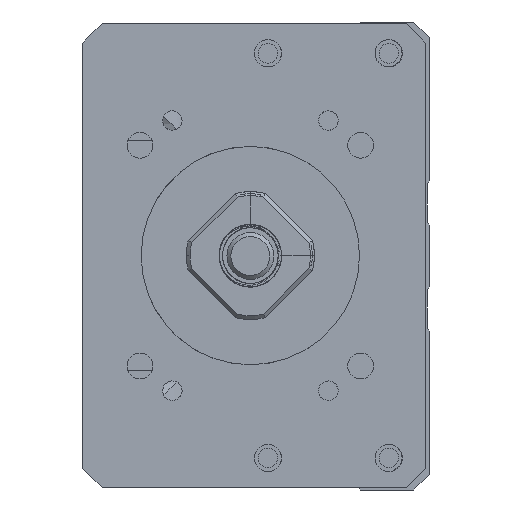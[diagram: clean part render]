
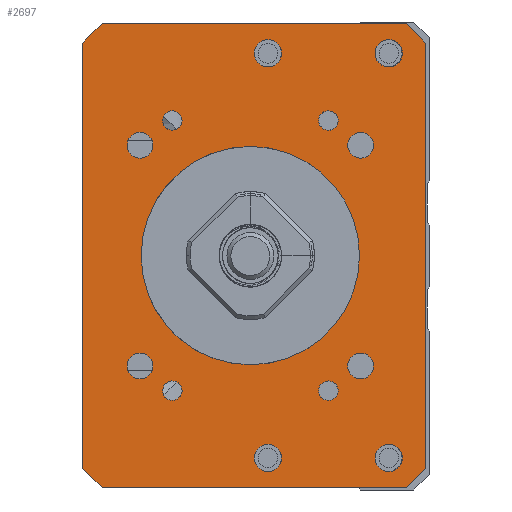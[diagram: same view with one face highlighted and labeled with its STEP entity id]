
A CAD part, left-side view. The second image highlights one B-rep face of the part: STEP entity #2697.
In plain terms, the highlighted planar face has unit normal (-1, 0, 0).
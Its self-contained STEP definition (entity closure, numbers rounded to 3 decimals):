
#1021=LINE('',#14729,#1851);
#1023=LINE('',#14753,#1853);
#1024=LINE('',#14755,#1854);
#1025=LINE('',#14757,#1855);
#1026=LINE('',#14759,#1856);
#1027=LINE('',#14761,#1857);
#1028=LINE('',#14763,#1858);
#1029=LINE('',#14765,#1859);
#1851=VECTOR('',#11752,1.);
#1853=VECTOR('',#11776,1.);
#1854=VECTOR('',#11777,1.);
#1855=VECTOR('',#11778,1.);
#1856=VECTOR('',#11779,1.);
#1857=VECTOR('',#11780,1.);
#1858=VECTOR('',#11781,1.);
#1859=VECTOR('',#11782,1.);
#2697=ADVANCED_FACE('',(#3717,#3718,#3719,#3720,#3721,#3722,#3723,#3724,
#3725,#3726,#3727,#3728,#3729,#3730),#3333,.F.);
#3333=PLANE('',#10707);
#3717=FACE_BOUND('',#4179,.T.);
#3718=FACE_BOUND('',#4180,.T.);
#3719=FACE_BOUND('',#4181,.T.);
#3720=FACE_BOUND('',#4182,.T.);
#3721=FACE_BOUND('',#4183,.T.);
#3722=FACE_BOUND('',#4184,.T.);
#3723=FACE_BOUND('',#4185,.T.);
#3724=FACE_BOUND('',#4186,.T.);
#3725=FACE_BOUND('',#4187,.T.);
#3726=FACE_BOUND('',#4188,.T.);
#3727=FACE_BOUND('',#4189,.T.);
#3728=FACE_BOUND('',#4190,.T.);
#3729=FACE_BOUND('',#4191,.T.);
#3730=FACE_BOUND('',#4192,.T.);
#4179=EDGE_LOOP('',(#5100));
#4180=EDGE_LOOP('',(#5101));
#4181=EDGE_LOOP('',(#5102));
#4182=EDGE_LOOP('',(#5103));
#4183=EDGE_LOOP('',(#5104));
#4184=EDGE_LOOP('',(#5105));
#4185=EDGE_LOOP('',(#5106));
#4186=EDGE_LOOP('',(#5107));
#4187=EDGE_LOOP('',(#5108));
#4188=EDGE_LOOP('',(#5109,#5110,#5111,#5112,#5113,#5114,#5115,#5116));
#4189=EDGE_LOOP('',(#5117));
#4190=EDGE_LOOP('',(#5118));
#4191=EDGE_LOOP('',(#5119));
#4192=EDGE_LOOP('',(#5120));
#5100=ORIENTED_EDGE('',*,*,#8917,.F.);
#5101=ORIENTED_EDGE('',*,*,#8918,.F.);
#5102=ORIENTED_EDGE('',*,*,#8919,.F.);
#5103=ORIENTED_EDGE('',*,*,#8920,.F.);
#5104=ORIENTED_EDGE('',*,*,#8921,.F.);
#5105=ORIENTED_EDGE('',*,*,#8922,.T.);
#5106=ORIENTED_EDGE('',*,*,#8923,.F.);
#5107=ORIENTED_EDGE('',*,*,#8924,.F.);
#5108=ORIENTED_EDGE('',*,*,#8925,.F.);
#5109=ORIENTED_EDGE('',*,*,#8914,.T.);
#5110=ORIENTED_EDGE('',*,*,#8926,.T.);
#5111=ORIENTED_EDGE('',*,*,#8927,.F.);
#5112=ORIENTED_EDGE('',*,*,#8928,.T.);
#5113=ORIENTED_EDGE('',*,*,#8929,.F.);
#5114=ORIENTED_EDGE('',*,*,#8930,.T.);
#5115=ORIENTED_EDGE('',*,*,#8931,.T.);
#5116=ORIENTED_EDGE('',*,*,#8932,.T.);
#5117=ORIENTED_EDGE('',*,*,#8933,.F.);
#5118=ORIENTED_EDGE('',*,*,#8934,.F.);
#5119=ORIENTED_EDGE('',*,*,#8935,.F.);
#5120=ORIENTED_EDGE('',*,*,#8894,.F.);
#7896=VERTEX_POINT('',#14652);
#7916=VERTEX_POINT('',#14728);
#7917=VERTEX_POINT('',#14730);
#7919=VERTEX_POINT('',#14736);
#7920=VERTEX_POINT('',#14738);
#7921=VERTEX_POINT('',#14740);
#7922=VERTEX_POINT('',#14742);
#7923=VERTEX_POINT('',#14744);
#7924=VERTEX_POINT('',#14746);
#7925=VERTEX_POINT('',#14748);
#7926=VERTEX_POINT('',#14750);
#7927=VERTEX_POINT('',#14752);
#7928=VERTEX_POINT('',#14754);
#7929=VERTEX_POINT('',#14756);
#7930=VERTEX_POINT('',#14758);
#7931=VERTEX_POINT('',#14760);
#7932=VERTEX_POINT('',#14762);
#7933=VERTEX_POINT('',#14764);
#7934=VERTEX_POINT('',#14767);
#7935=VERTEX_POINT('',#14769);
#7936=VERTEX_POINT('',#14771);
#8894=EDGE_CURVE('',#7896,#7896,#10304,.T.);
#8914=EDGE_CURVE('',#7917,#7916,#1021,.T.);
#8917=EDGE_CURVE('',#7919,#7919,#10313,.T.);
#8918=EDGE_CURVE('',#7920,#7920,#10314,.T.);
#8919=EDGE_CURVE('',#7921,#7921,#10315,.T.);
#8920=EDGE_CURVE('',#7922,#7922,#10316,.T.);
#8921=EDGE_CURVE('',#7923,#7923,#10317,.T.);
#8922=EDGE_CURVE('',#7924,#7924,#10318,.T.);
#8923=EDGE_CURVE('',#7925,#7925,#10319,.T.);
#8924=EDGE_CURVE('',#7926,#7926,#10320,.T.);
#8925=EDGE_CURVE('',#7927,#7927,#10321,.T.);
#8926=EDGE_CURVE('',#7916,#7928,#1023,.T.);
#8927=EDGE_CURVE('',#7929,#7928,#1024,.T.);
#8928=EDGE_CURVE('',#7929,#7930,#1025,.T.);
#8929=EDGE_CURVE('',#7931,#7930,#1026,.T.);
#8930=EDGE_CURVE('',#7931,#7932,#1027,.T.);
#8931=EDGE_CURVE('',#7932,#7933,#1028,.T.);
#8932=EDGE_CURVE('',#7933,#7917,#1029,.T.);
#8933=EDGE_CURVE('',#7934,#7934,#10322,.T.);
#8934=EDGE_CURVE('',#7935,#7935,#10323,.T.);
#8935=EDGE_CURVE('',#7936,#7936,#10324,.T.);
#10304=CIRCLE('',#10684,14.);
#10313=CIRCLE('',#10695,1.65);
#10314=CIRCLE('',#10696,1.65);
#10315=CIRCLE('',#10697,1.65);
#10316=CIRCLE('',#10698,1.65);
#10317=CIRCLE('',#10699,1.25);
#10318=CIRCLE('',#10700,1.75);
#10319=CIRCLE('',#10701,1.25);
#10320=CIRCLE('',#10702,1.75);
#10321=CIRCLE('',#10703,1.25);
#10322=CIRCLE('',#10704,1.75);
#10323=CIRCLE('',#10705,1.75);
#10324=CIRCLE('',#10706,1.25);
#10684=AXIS2_PLACEMENT_3D('',#14651,#11726,#11727);
#10695=AXIS2_PLACEMENT_3D('',#14735,#11758,#11759);
#10696=AXIS2_PLACEMENT_3D('',#14737,#11760,#11761);
#10697=AXIS2_PLACEMENT_3D('',#14739,#11762,#11763);
#10698=AXIS2_PLACEMENT_3D('',#14741,#11764,#11765);
#10699=AXIS2_PLACEMENT_3D('',#14743,#11766,#11767);
#10700=AXIS2_PLACEMENT_3D('',#14745,#11768,#11769);
#10701=AXIS2_PLACEMENT_3D('',#14747,#11770,#11771);
#10702=AXIS2_PLACEMENT_3D('',#14749,#11772,#11773);
#10703=AXIS2_PLACEMENT_3D('',#14751,#11774,#11775);
#10704=AXIS2_PLACEMENT_3D('',#14766,#11783,#11784);
#10705=AXIS2_PLACEMENT_3D('',#14768,#11785,#11786);
#10706=AXIS2_PLACEMENT_3D('',#14770,#11787,#11788);
#10707=AXIS2_PLACEMENT_3D('',#14772,#11789,#11790);
#11726=DIRECTION('',(-1.,0.,0.));
#11727=DIRECTION('',(0.,1.,0.));
#11752=DIRECTION('',(0.,0.,-1.));
#11758=DIRECTION('',(-1.,0.,0.));
#11759=DIRECTION('',(0.,0.,1.));
#11760=DIRECTION('',(-1.,0.,0.));
#11761=DIRECTION('',(0.,0.,1.));
#11762=DIRECTION('',(-1.,0.,0.));
#11763=DIRECTION('',(0.,0.,1.));
#11764=DIRECTION('',(-1.,0.,0.));
#11765=DIRECTION('',(0.,0.,1.));
#11766=DIRECTION('',(-1.,0.,0.));
#11767=DIRECTION('',(0.,1.,0.));
#11768=DIRECTION('',(1.,0.,0.));
#11769=DIRECTION('',(0.,0.,1.));
#11770=DIRECTION('',(-1.,0.,0.));
#11771=DIRECTION('',(0.,1.,0.));
#11772=DIRECTION('',(-1.,0.,0.));
#11773=DIRECTION('',(0.,0.,1.));
#11774=DIRECTION('',(-1.,0.,0.));
#11775=DIRECTION('',(0.,1.,0.));
#11776=DIRECTION('',(0.,-0.707,-0.707));
#11777=DIRECTION('',(0.,1.,0.));
#11778=DIRECTION('',(0.,-0.707,0.707));
#11779=DIRECTION('',(0.,0.,-1.));
#11780=DIRECTION('',(0.,0.707,0.707));
#11781=DIRECTION('',(0.,1.,0.));
#11782=DIRECTION('',(0.,0.707,-0.707));
#11783=DIRECTION('',(-1.,0.,0.));
#11784=DIRECTION('',(0.,0.,1.));
#11785=DIRECTION('',(-1.,0.,0.));
#11786=DIRECTION('',(0.,0.,1.));
#11787=DIRECTION('',(-1.,0.,0.));
#11788=DIRECTION('',(0.,1.,0.));
#11789=DIRECTION('',(1.,0.,0.));
#11790=DIRECTION('',(0.,1.,0.));
#14651=CARTESIAN_POINT('',(-211.,0.,-100.));
#14652=CARTESIAN_POINT('',(-211.,14.,-100.));
#14728=CARTESIAN_POINT('',(-211.,21.499,-127.25));
#14729=CARTESIAN_POINT('',(-211.,21.499,-70.25));
#14730=CARTESIAN_POINT('',(-211.,21.499,-72.75));
#14735=CARTESIAN_POINT('',(-211.,14.142,-85.858));
#14736=CARTESIAN_POINT('',(-211.,14.142,-84.208));
#14737=CARTESIAN_POINT('',(-211.,-14.142,-85.858));
#14738=CARTESIAN_POINT('',(-211.,-14.142,-84.208));
#14739=CARTESIAN_POINT('',(-211.,14.142,-114.142));
#14740=CARTESIAN_POINT('',(-211.,14.142,-112.492));
#14741=CARTESIAN_POINT('',(-211.,-14.142,-114.142));
#14742=CARTESIAN_POINT('',(-211.,-14.142,-112.492));
#14743=CARTESIAN_POINT('',(-211.,-10.,-117.321));
#14744=CARTESIAN_POINT('',(-211.,-8.75,-117.321));
#14745=CARTESIAN_POINT('',(-211.,-2.25,-125.936));
#14746=CARTESIAN_POINT('',(-211.,-2.25,-124.186));
#14747=CARTESIAN_POINT('',(-211.,10.,-82.679));
#14748=CARTESIAN_POINT('',(-211.,11.25,-82.679));
#14749=CARTESIAN_POINT('',(-211.,-2.25,-74.064));
#14750=CARTESIAN_POINT('',(-211.,-2.25,-72.314));
#14751=CARTESIAN_POINT('',(-211.,10.,-117.321));
#14752=CARTESIAN_POINT('',(-211.,11.25,-117.321));
#14753=CARTESIAN_POINT('',(-211.,18.999,-129.75));
#14754=CARTESIAN_POINT('',(-211.,18.999,-129.75));
#14755=CARTESIAN_POINT('',(-211.,-22.501,-129.75));
#14756=CARTESIAN_POINT('',(-211.,-20.001,-129.75));
#14757=CARTESIAN_POINT('',(-211.,-22.501,-127.25));
#14758=CARTESIAN_POINT('',(-211.,-22.501,-127.25));
#14759=CARTESIAN_POINT('',(-211.,-22.501,-70.25));
#14760=CARTESIAN_POINT('',(-211.,-22.501,-72.75));
#14761=CARTESIAN_POINT('',(-211.,-22.501,-72.75));
#14762=CARTESIAN_POINT('',(-211.,-20.001,-70.25));
#14763=CARTESIAN_POINT('',(-211.,-22.501,-70.25));
#14764=CARTESIAN_POINT('',(-211.,18.999,-70.25));
#14765=CARTESIAN_POINT('',(-211.,18.999,-70.25));
#14766=CARTESIAN_POINT('',(-211.,-17.75,-74.064));
#14767=CARTESIAN_POINT('',(-211.,-17.75,-72.314));
#14768=CARTESIAN_POINT('',(-211.,-17.75,-125.936));
#14769=CARTESIAN_POINT('',(-211.,-17.75,-124.186));
#14770=CARTESIAN_POINT('',(-211.,-10.,-82.679));
#14771=CARTESIAN_POINT('',(-211.,-8.75,-82.679));
#14772=CARTESIAN_POINT('',(-211.,-22.501,-70.25));
